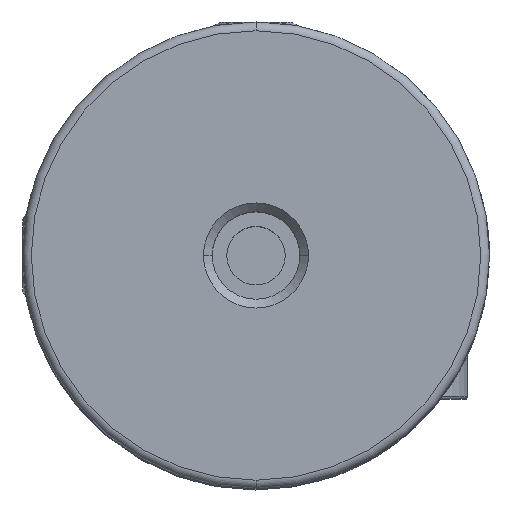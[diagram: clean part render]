
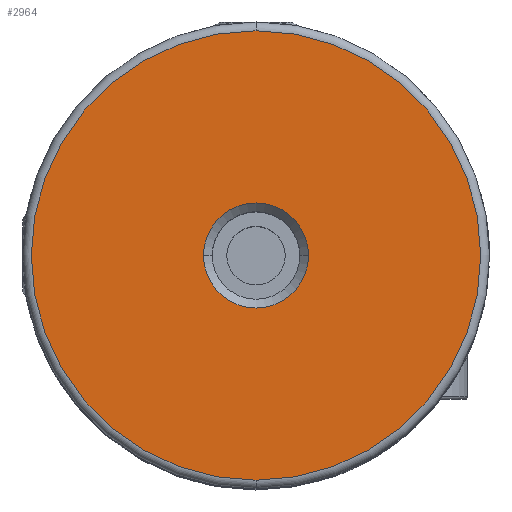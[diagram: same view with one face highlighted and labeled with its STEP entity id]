
A CAD part, top view. The second image highlights one B-rep face of the part: STEP entity #2964.
In plain terms, the highlighted planar face has unit normal (0, 0, 1).
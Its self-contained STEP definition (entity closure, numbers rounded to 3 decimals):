
#49 = DIRECTION ( 'NONE',  ( 0., 1., 0. ) ) ;
#50 = DIRECTION ( 'NONE',  ( 0., 0., 1. ) ) ;
#51 = CARTESIAN_POINT ( 'NONE',  ( 0., 0., 8.95 ) ) ;
#117 = FACE_BOUND ( 'NONE', #1979, .T. ) ;
#130 = FACE_OUTER_BOUND ( 'NONE', #1852, .T. ) ;
#495 = CIRCLE ( 'NONE', #3472, 7.7 ) ;
#1035 = CARTESIAN_POINT ( 'NONE',  ( 0., 0., 8.95 ) ) ;
#1036 = DIRECTION ( 'NONE',  ( 0., 0., -1. ) ) ;
#1037 = DIRECTION ( 'NONE',  ( -1., 0., 0. ) ) ;
#1275 = CIRCLE ( 'NONE', #3517, 1.8 ) ;
#1400 = CIRCLE ( 'NONE', #3559, 1.8 ) ;
#1403 = CIRCLE ( 'NONE', #3560, 7.7 ) ;
#1852 = EDGE_LOOP ( 'NONE', ( #2202, #2248 ) ) ;
#1979 = EDGE_LOOP ( 'NONE', ( #2196, #2197 ) ) ;
#2196 = ORIENTED_EDGE ( 'NONE', *, *, #3784, .T. ) ;
#2197 = ORIENTED_EDGE ( 'NONE', *, *, #3906, .T. ) ;
#2202 = ORIENTED_EDGE ( 'NONE', *, *, #3907, .T. ) ;
#2248 = ORIENTED_EDGE ( 'NONE', *, *, #3646, .T. ) ;
#2964 = ADVANCED_FACE ( 'NONE', ( #117, #130 ), #4784, .F. ) ;
#3235 = AXIS2_PLACEMENT_3D ( 'NONE', #4793, #4778, #4776 ) ;
#3472 = AXIS2_PLACEMENT_3D ( 'NONE', #51, #50, #49 ) ;
#3517 = AXIS2_PLACEMENT_3D ( 'NONE', #1035, #1036, #1037 ) ;
#3559 = AXIS2_PLACEMENT_3D ( 'NONE', #5217, #5218, #5219 ) ;
#3560 = AXIS2_PLACEMENT_3D ( 'NONE', #5222, #5223, #5224 ) ;
#3646 = EDGE_CURVE ( 'NONE', #5524, #5537, #495, .T. ) ;
#3784 = EDGE_CURVE ( 'NONE', #5616, #5623, #1275, .T. ) ;
#3906 = EDGE_CURVE ( 'NONE', #5623, #5616, #1400, .T. ) ;
#3907 = EDGE_CURVE ( 'NONE', #5537, #5524, #1403, .T. ) ;
#4776 = DIRECTION ( 'NONE',  ( 0., 1., 0. ) ) ;
#4778 = DIRECTION ( 'NONE',  ( 0., 0., -1. ) ) ;
#4784 = PLANE ( 'NONE',  #3235 ) ;
#4793 = CARTESIAN_POINT ( 'NONE',  ( 0., 0., 8.95 ) ) ;
#5217 = CARTESIAN_POINT ( 'NONE',  ( 0., 0., 8.95 ) ) ;
#5218 = DIRECTION ( 'NONE',  ( 0., 0., -1. ) ) ;
#5219 = DIRECTION ( 'NONE',  ( -1., 0., 0. ) ) ;
#5222 = CARTESIAN_POINT ( 'NONE',  ( 0., 0., 8.95 ) ) ;
#5223 = DIRECTION ( 'NONE',  ( 0., 0., 1. ) ) ;
#5224 = DIRECTION ( 'NONE',  ( 0., 1., 0. ) ) ;
#5524 = VERTEX_POINT ( 'NONE', #6120 ) ;
#5537 = VERTEX_POINT ( 'NONE', #6133 ) ;
#5616 = VERTEX_POINT ( 'NONE', #6212 ) ;
#5623 = VERTEX_POINT ( 'NONE', #6219 ) ;
#6120 = CARTESIAN_POINT ( 'NONE',  ( 0., -7.7, 8.95 ) ) ;
#6133 = CARTESIAN_POINT ( 'NONE',  ( 0., 7.7, 8.95 ) ) ;
#6212 = CARTESIAN_POINT ( 'NONE',  ( 1.8, 0., 8.95 ) ) ;
#6219 = CARTESIAN_POINT ( 'NONE',  ( -1.8, 0., 8.95 ) ) ;
